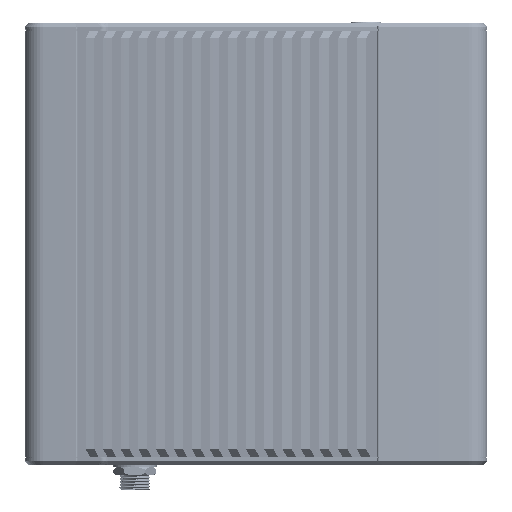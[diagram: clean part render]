
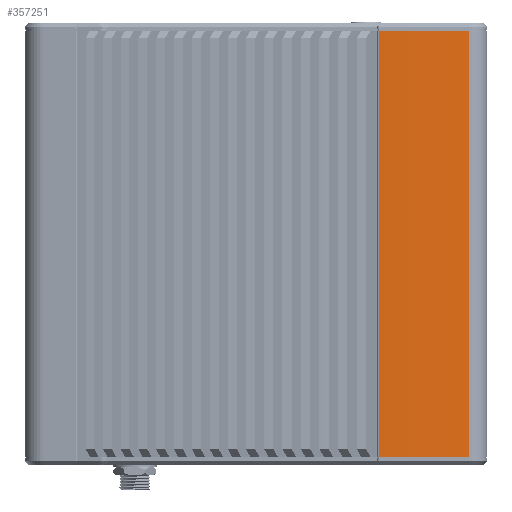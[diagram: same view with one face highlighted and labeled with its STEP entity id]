
A CAD part, top view. The second image highlights one B-rep face of the part: STEP entity #357251.
In plain terms, the highlighted cylindrical face has radius 539.6 mm (diameter 1079.2 mm), a partial arc.
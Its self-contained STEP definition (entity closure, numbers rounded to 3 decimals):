
#12207=CYLINDRICAL_SURFACE('',#381991,539.6);
#18705=CIRCLE('',#380592,539.6);
#18815=CIRCLE('',#380703,539.6);
#37459=FACE_OUTER_BOUND('',#57828,.T.);
#57828=EDGE_LOOP('',(#310561,#310562,#310563,#310564));
#93629=LINE('',#776995,#132444);
#93630=LINE('',#776996,#132445);
#132444=VECTOR('',#460985,1.);
#132445=VECTOR('',#460986,1.);
#166182=VERTEX_POINT('',#772883);
#166183=VERTEX_POINT('',#772885);
#166413=VERTEX_POINT('',#773348);
#166414=VERTEX_POINT('',#773349);
#214203=EDGE_CURVE('',#166182,#166183,#18705,.T.);
#214435=EDGE_CURVE('',#166413,#166414,#18815,.T.);
#216055=EDGE_CURVE('',#166182,#166413,#93629,.T.);
#216056=EDGE_CURVE('',#166414,#166183,#93630,.T.);
#310561=ORIENTED_EDGE('',*,*,#214203,.F.);
#310562=ORIENTED_EDGE('',*,*,#216055,.T.);
#310563=ORIENTED_EDGE('',*,*,#214435,.T.);
#310564=ORIENTED_EDGE('',*,*,#216056,.T.);
#357251=ADVANCED_FACE('',(#37459),#12207,.T.);
#380592=AXIS2_PLACEMENT_3D('',#772886,#457136,#457137);
#380703=AXIS2_PLACEMENT_3D('',#773350,#457480,#457481);
#381991=AXIS2_PLACEMENT_3D('',#776994,#460983,#460984);
#457136=DIRECTION('center_axis',(0.,-1.,0.));
#457137=DIRECTION('ref_axis',(0.,0.,1.));
#457480=DIRECTION('center_axis',(0.,-1.,0.));
#457481=DIRECTION('ref_axis',(0.,0.,-1.));
#460983=DIRECTION('center_axis',(0.,-1.,0.));
#460984=DIRECTION('ref_axis',(0.,0.,-1.));
#460985=DIRECTION('',(0.,1.,0.));
#460986=DIRECTION('',(0.,-1.,0.));
#772883=CARTESIAN_POINT('',(99.423,-6.414,20.887));
#772885=CARTESIAN_POINT('',(76.604,-6.414,22.694));
#772886=CARTESIAN_POINT('Origin',(45.423,-6.414,-516.004));
#773348=CARTESIAN_POINT('',(99.423,101.584,20.887));
#773349=CARTESIAN_POINT('',(76.604,101.584,22.694));
#773350=CARTESIAN_POINT('Origin',(45.423,101.584,-516.004));
#776994=CARTESIAN_POINT('Origin',(45.423,101.884,-516.004));
#776995=CARTESIAN_POINT('',(99.423,101.884,20.887));
#776996=CARTESIAN_POINT('',(76.604,101.884,22.694));
